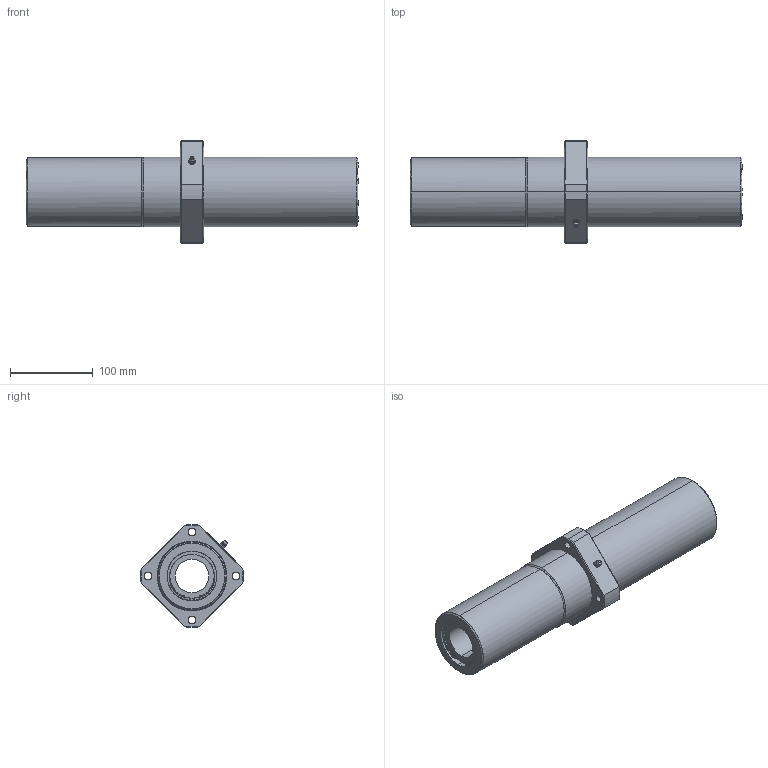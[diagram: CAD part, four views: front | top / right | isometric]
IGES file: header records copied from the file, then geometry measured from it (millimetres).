
Global section: file name: No Iges File Name specified; native system: AutoDesk Inventor R10; preprocessor: AutoDesk Inventor Iges Exporter R10; author: No Author specified; organization: No Organization specified; date: 20101214.141831; units: millimetre
Bounding box: 400 x 123.84 x 124 mm (x, y, z)
Surface area: 190300.3 mm2 (no closed solid volume)
Topology: 0 solids, 0 shells, 186 faces, 1216 edges, 1214 vertices
Faces by surface type: bspline 186
